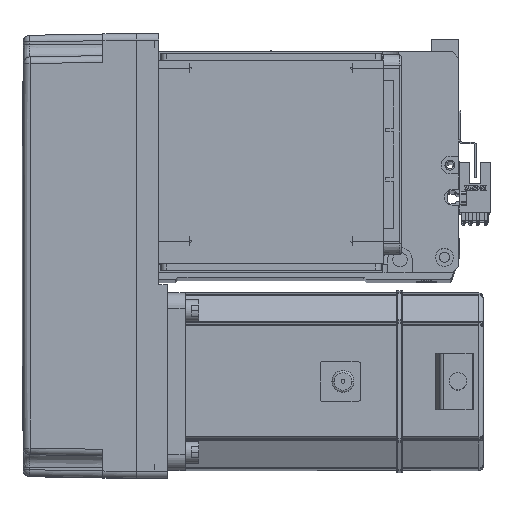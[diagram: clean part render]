
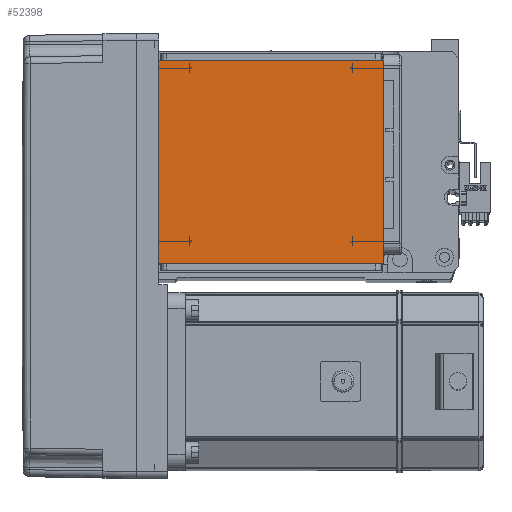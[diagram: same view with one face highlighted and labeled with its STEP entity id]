
A CAD part, top view. The second image highlights one B-rep face of the part: STEP entity #52398.
In plain terms, the highlighted planar face has unit normal (0, 0, 1).
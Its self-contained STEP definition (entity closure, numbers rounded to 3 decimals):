
#4319 = LINE ( 'NONE', #52139, #49222 ) ;
#6369 = LINE ( 'NONE', #25935, #22953 ) ;
#7990 = DIRECTION ( 'NONE',  ( -1., 0., 0. ) ) ;
#8760 = LINE ( 'NONE', #38467, #19149 ) ;
#8870 = FACE_OUTER_BOUND ( 'NONE', #53149, .T. ) ;
#13716 = ORIENTED_EDGE ( 'NONE', *, *, #47315, .F. ) ;
#13860 = CARTESIAN_POINT ( 'NONE',  ( 50.5, 20., 115. ) ) ;
#18116 = VECTOR ( 'NONE', #27571, 1000. ) ;
#18759 = CARTESIAN_POINT ( 'NONE',  ( 50.5, 122., 115. ) ) ;
#19149 = VECTOR ( 'NONE', #37691, 1000. ) ;
#21046 = CARTESIAN_POINT ( 'NONE',  ( 50.5, 111.5, 115. ) ) ;
#22953 = VECTOR ( 'NONE', #53092, 1000. ) ;
#25935 = CARTESIAN_POINT ( 'NONE',  ( -50.5, 122., 115. ) ) ;
#25980 = EDGE_CURVE ( 'NONE', #57029, #38311, #49772, .T. ) ;
#26152 = CARTESIAN_POINT ( 'NONE',  ( -50.5, 20., 115. ) ) ;
#27571 = DIRECTION ( 'NONE',  ( 0., 1., 0. ) ) ;
#28167 = DIRECTION ( 'NONE',  ( 0., 0., 1. ) ) ;
#32272 = CARTESIAN_POINT ( 'NONE',  ( 0., 0., 115. ) ) ;
#32457 = DIRECTION ( 'NONE',  ( 1., 0., 0. ) ) ;
#33854 = EDGE_CURVE ( 'NONE', #57029, #51743, #4319, .T. ) ;
#33933 = EDGE_CURVE ( 'NONE', #39472, #51743, #6369, .T. ) ;
#36490 = PLANE ( 'NONE',  #50655 ) ;
#37417 = ORIENTED_EDGE ( 'NONE', *, *, #33933, .T. ) ;
#37691 = DIRECTION ( 'NONE',  ( 1., 0., 0. ) ) ;
#38311 = VERTEX_POINT ( 'NONE', #21046 ) ;
#38467 = CARTESIAN_POINT ( 'NONE',  ( -70.004, 111.5, 115. ) ) ;
#39472 = VERTEX_POINT ( 'NONE', #52483 ) ;
#41231 = ORIENTED_EDGE ( 'NONE', *, *, #25980, .T. ) ;
#47315 = EDGE_CURVE ( 'NONE', #39472, #38311, #8760, .T. ) ;
#47602 = ORIENTED_EDGE ( 'NONE', *, *, #33854, .F. ) ;
#49222 = VECTOR ( 'NONE', #7990, 1000. ) ;
#49772 = LINE ( 'NONE', #18759, #18116 ) ;
#50655 = AXIS2_PLACEMENT_3D ( 'NONE', #32272, #28167, #32457 ) ;
#51743 = VERTEX_POINT ( 'NONE', #26152 ) ;
#52139 = CARTESIAN_POINT ( 'NONE',  ( -70.004, 20., 115. ) ) ;
#52398 = ADVANCED_FACE ( 'NONE', ( #8870 ), #36490, .T. ) ;
#52483 = CARTESIAN_POINT ( 'NONE',  ( -50.5, 111.5, 115. ) ) ;
#53092 = DIRECTION ( 'NONE',  ( 0., -1., 0. ) ) ;
#53149 = EDGE_LOOP ( 'NONE', ( #13716, #37417, #47602, #41231 ) ) ;
#57029 = VERTEX_POINT ( 'NONE', #13860 ) ;
